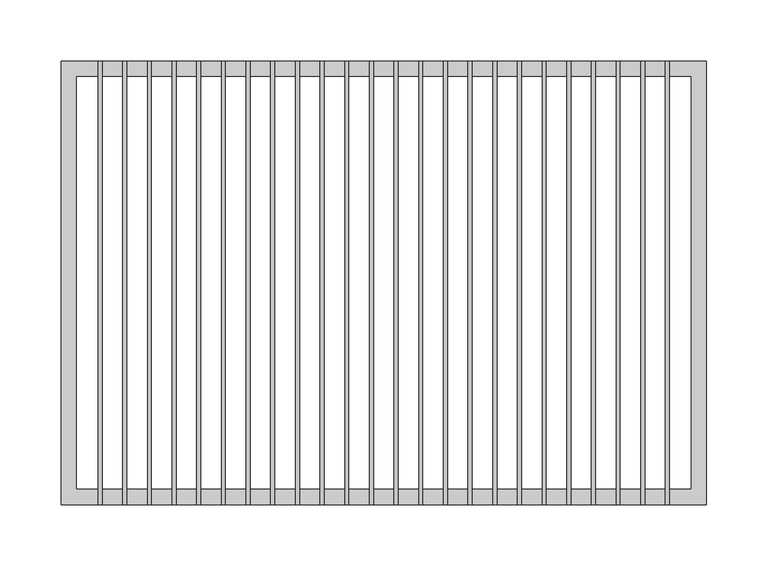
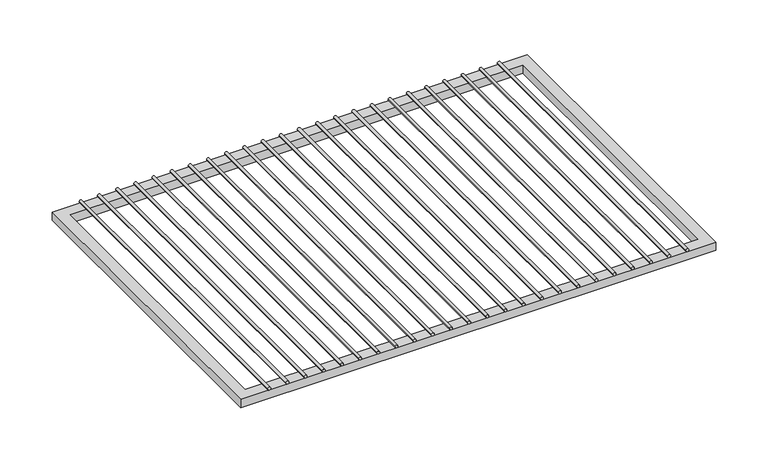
"""IFC4 building model written with IfcOpenShell, lengths in millimetres: furniture geometry, HermanMiller_CoStruc_CO252_CWireShelf : 14D x 20W."""

from ifc_helpers import new_model, si_unit, point, frame, frame_2d, origin, place, context, project, spatial, polyline, circle_curve, trimmed, segment, composite_curve, outline, extrude, source, transform, mapped, element, save


def furniture_057a80fa(model_context):
    return source(origin(), model_context, "Body", "SweptSolid", [
        extrude(outline(composite_curve([segment(trimmed(circle_curve(frame_2d((1465.2625, -211.6206522)), 1.5875), [point((1465.2625, -213.2081522))], [point((1465.2625, -210.0331522))], False, "CARTESIAN"), True, "CONTINUOUS"), segment(trimmed(circle_curve(frame_2d((1465.2625, -211.6206522)), 1.5875), [point((1465.2625, -210.0331522))], [point((1465.2625, -213.2081522))], False, "CARTESIAN"), True, "CONTINUOUS")], self_intersect=False)), frame((0.0, -180.975, 0.0), z_axis=(0.0, 1.0, 0.0), x_axis=(0.0, 0.0, 1.0)), (0.0, 0.0, 1.0), 361.95),
        extrude(outline(composite_curve([segment(trimmed(circle_curve(frame_2d((1465.2625, -191.4663043)), 1.5875), [point((1465.2625, -193.0538043))], [point((1465.2625, -189.8788043))], False, "CARTESIAN"), True, "CONTINUOUS"), segment(trimmed(circle_curve(frame_2d((1465.2625, -191.4663043)), 1.5875), [point((1465.2625, -189.8788043))], [point((1465.2625, -193.0538043))], False, "CARTESIAN"), True, "CONTINUOUS")], self_intersect=False)), frame((0.0, -180.975, 0.0), z_axis=(0.0, 1.0, 0.0), x_axis=(0.0, 0.0, 1.0)), (0.0, 0.0, 1.0), 361.95),
        extrude(outline(composite_curve([segment(trimmed(circle_curve(frame_2d((1465.2625, -171.3119565)), 1.5875), [point((1465.2625, -172.8994565))], [point((1465.2625, -169.7244565))], False, "CARTESIAN"), True, "CONTINUOUS"), segment(trimmed(circle_curve(frame_2d((1465.2625, -171.3119565)), 1.5875), [point((1465.2625, -169.7244565))], [point((1465.2625, -172.8994565))], False, "CARTESIAN"), True, "CONTINUOUS")], self_intersect=False)), frame((0.0, -180.975, 0.0), z_axis=(0.0, 1.0, 0.0), x_axis=(0.0, 0.0, 1.0)), (0.0, 0.0, 1.0), 361.95),
        extrude(outline(composite_curve([segment(trimmed(circle_curve(frame_2d((1465.2625, -151.1576087)), 1.5875), [point((1465.2625, -152.7451087))], [point((1465.2625, -149.5701087))], False, "CARTESIAN"), True, "CONTINUOUS"), segment(trimmed(circle_curve(frame_2d((1465.2625, -151.1576087)), 1.5875), [point((1465.2625, -149.5701087))], [point((1465.2625, -152.7451087))], False, "CARTESIAN"), True, "CONTINUOUS")], self_intersect=False)), frame((0.0, -180.975, 0.0), z_axis=(0.0, 1.0, 0.0), x_axis=(0.0, 0.0, 1.0)), (0.0, 0.0, 1.0), 361.95),
        extrude(outline(composite_curve([segment(trimmed(circle_curve(frame_2d((1465.2625, -131.0032609)), 1.5875), [point((1465.2625, -132.5907609))], [point((1465.2625, -129.4157609))], False, "CARTESIAN"), True, "CONTINUOUS"), segment(trimmed(circle_curve(frame_2d((1465.2625, -131.0032609)), 1.5875), [point((1465.2625, -129.4157609))], [point((1465.2625, -132.5907609))], False, "CARTESIAN"), True, "CONTINUOUS")], self_intersect=False)), frame((0.0, -180.975, 0.0), z_axis=(0.0, 1.0, 0.0), x_axis=(0.0, 0.0, 1.0)), (0.0, 0.0, 1.0), 361.95),
        extrude(outline(composite_curve([segment(trimmed(circle_curve(frame_2d((1465.2625, -110.848913)), 1.5875), [point((1465.2625, -112.436413))], [point((1465.2625, -109.261413))], False, "CARTESIAN"), True, "CONTINUOUS"), segment(trimmed(circle_curve(frame_2d((1465.2625, -110.848913)), 1.5875), [point((1465.2625, -109.261413))], [point((1465.2625, -112.436413))], False, "CARTESIAN"), True, "CONTINUOUS")], self_intersect=False)), frame((0.0, -180.975, 0.0), z_axis=(0.0, 1.0, 0.0), x_axis=(0.0, 0.0, 1.0)), (0.0, 0.0, 1.0), 361.95),
        extrude(outline(composite_curve([segment(trimmed(circle_curve(frame_2d((1465.2625, -90.6945652)), 1.5875), [point((1465.2625, -92.2820652))], [point((1465.2625, -89.1070652))], False, "CARTESIAN"), True, "CONTINUOUS"), segment(trimmed(circle_curve(frame_2d((1465.2625, -90.6945652)), 1.5875), [point((1465.2625, -89.1070652))], [point((1465.2625, -92.2820652))], False, "CARTESIAN"), True, "CONTINUOUS")], self_intersect=False)), frame((0.0, -180.975, 0.0), z_axis=(0.0, 1.0, 0.0), x_axis=(0.0, 0.0, 1.0)), (0.0, 0.0, 1.0), 361.95),
        extrude(outline(composite_curve([segment(trimmed(circle_curve(frame_2d((1465.2625, -70.5402174)), 1.5875), [point((1465.2625, -72.1277174))], [point((1465.2625, -68.9527174))], False, "CARTESIAN"), True, "CONTINUOUS"), segment(trimmed(circle_curve(frame_2d((1465.2625, -70.5402174)), 1.5875), [point((1465.2625, -68.9527174))], [point((1465.2625, -72.1277174))], False, "CARTESIAN"), True, "CONTINUOUS")], self_intersect=False)), frame((0.0, -180.975, 0.0), z_axis=(0.0, 1.0, 0.0), x_axis=(0.0, 0.0, 1.0)), (0.0, 0.0, 1.0), 361.95),
        extrude(outline(composite_curve([segment(trimmed(circle_curve(frame_2d((1465.2625, -50.3858696)), 1.5875), [point((1465.2625, -51.9733696))], [point((1465.2625, -48.7983696))], False, "CARTESIAN"), True, "CONTINUOUS"), segment(trimmed(circle_curve(frame_2d((1465.2625, -50.3858696)), 1.5875), [point((1465.2625, -48.7983696))], [point((1465.2625, -51.9733696))], False, "CARTESIAN"), True, "CONTINUOUS")], self_intersect=False)), frame((0.0, -180.975, 0.0), z_axis=(0.0, 1.0, 0.0), x_axis=(0.0, 0.0, 1.0)), (0.0, 0.0, 1.0), 361.95),
        extrude(outline(composite_curve([segment(trimmed(circle_curve(frame_2d((1465.2625, -30.2315217)), 1.5875), [point((1465.2625, -31.8190217))], [point((1465.2625, -28.6440217))], False, "CARTESIAN"), True, "CONTINUOUS"), segment(trimmed(circle_curve(frame_2d((1465.2625, -30.2315217)), 1.5875), [point((1465.2625, -28.6440217))], [point((1465.2625, -31.8190217))], False, "CARTESIAN"), True, "CONTINUOUS")], self_intersect=False)), frame((0.0, -180.975, 0.0), z_axis=(0.0, 1.0, 0.0), x_axis=(0.0, 0.0, 1.0)), (0.0, 0.0, 1.0), 361.95),
        extrude(outline(composite_curve([segment(trimmed(circle_curve(frame_2d((1465.2625, -10.0771739)), 1.5875), [point((1465.2625, -11.6646739))], [point((1465.2625, -8.4896739))], False, "CARTESIAN"), True, "CONTINUOUS"), segment(trimmed(circle_curve(frame_2d((1465.2625, -10.0771739)), 1.5875), [point((1465.2625, -8.4896739))], [point((1465.2625, -11.6646739))], False, "CARTESIAN"), True, "CONTINUOUS")], self_intersect=False)), frame((0.0, -180.975, 0.0), z_axis=(0.0, 1.0, 0.0), x_axis=(0.0, 0.0, 1.0)), (0.0, 0.0, 1.0), 361.95),
        extrude(outline(composite_curve([segment(trimmed(circle_curve(frame_2d((1465.2625, 10.0771739)), 1.5875), [point((1465.2625, 8.4896739))], [point((1465.2625, 11.6646739))], False, "CARTESIAN"), True, "CONTINUOUS"), segment(trimmed(circle_curve(frame_2d((1465.2625, 10.0771739)), 1.5875), [point((1465.2625, 11.6646739))], [point((1465.2625, 8.4896739))], False, "CARTESIAN"), True, "CONTINUOUS")], self_intersect=False)), frame((0.0, -180.975, 0.0), z_axis=(0.0, 1.0, 0.0), x_axis=(0.0, 0.0, 1.0)), (0.0, 0.0, 1.0), 361.95),
        extrude(outline(composite_curve([segment(trimmed(circle_curve(frame_2d((1465.2625, 30.2315217)), 1.5875), [point((1465.2625, 28.6440217))], [point((1465.2625, 31.8190217))], False, "CARTESIAN"), True, "CONTINUOUS"), segment(trimmed(circle_curve(frame_2d((1465.2625, 30.2315217)), 1.5875), [point((1465.2625, 31.8190217))], [point((1465.2625, 28.6440217))], False, "CARTESIAN"), True, "CONTINUOUS")], self_intersect=False)), frame((0.0, -180.975, 0.0), z_axis=(0.0, 1.0, 0.0), x_axis=(0.0, 0.0, 1.0)), (0.0, 0.0, 1.0), 361.95),
        extrude(outline(composite_curve([segment(trimmed(circle_curve(frame_2d((1465.2625, 50.3858696)), 1.5875), [point((1465.2625, 48.7983696))], [point((1465.2625, 51.9733696))], False, "CARTESIAN"), True, "CONTINUOUS"), segment(trimmed(circle_curve(frame_2d((1465.2625, 50.3858696)), 1.5875), [point((1465.2625, 51.9733696))], [point((1465.2625, 48.7983696))], False, "CARTESIAN"), True, "CONTINUOUS")], self_intersect=False)), frame((0.0, -180.975, 0.0), z_axis=(0.0, 1.0, 0.0), x_axis=(0.0, 0.0, 1.0)), (0.0, 0.0, 1.0), 361.95),
        extrude(outline(composite_curve([segment(trimmed(circle_curve(frame_2d((1465.2625, 70.5402174)), 1.5875), [point((1465.2625, 68.9527174))], [point((1465.2625, 72.1277174))], False, "CARTESIAN"), True, "CONTINUOUS"), segment(trimmed(circle_curve(frame_2d((1465.2625, 70.5402174)), 1.5875), [point((1465.2625, 72.1277174))], [point((1465.2625, 68.9527174))], False, "CARTESIAN"), True, "CONTINUOUS")], self_intersect=False)), frame((0.0, -180.975, 0.0), z_axis=(0.0, 1.0, 0.0), x_axis=(0.0, 0.0, 1.0)), (0.0, 0.0, 1.0), 361.95),
        extrude(outline(composite_curve([segment(trimmed(circle_curve(frame_2d((1465.2625, 90.6945652)), 1.5875), [point((1465.2625, 89.1070652))], [point((1465.2625, 92.2820652))], False, "CARTESIAN"), True, "CONTINUOUS"), segment(trimmed(circle_curve(frame_2d((1465.2625, 90.6945652)), 1.5875), [point((1465.2625, 92.2820652))], [point((1465.2625, 89.1070652))], False, "CARTESIAN"), True, "CONTINUOUS")], self_intersect=False)), frame((0.0, -180.975, 0.0), z_axis=(0.0, 1.0, 0.0), x_axis=(0.0, 0.0, 1.0)), (0.0, 0.0, 1.0), 361.95),
        extrude(outline(composite_curve([segment(trimmed(circle_curve(frame_2d((1465.2625, 110.848913)), 1.5875), [point((1465.2625, 109.261413))], [point((1465.2625, 112.436413))], False, "CARTESIAN"), True, "CONTINUOUS"), segment(trimmed(circle_curve(frame_2d((1465.2625, 110.848913)), 1.5875), [point((1465.2625, 112.436413))], [point((1465.2625, 109.261413))], False, "CARTESIAN"), True, "CONTINUOUS")], self_intersect=False)), frame((0.0, -180.975, 0.0), z_axis=(0.0, 1.0, 0.0), x_axis=(0.0, 0.0, 1.0)), (0.0, 0.0, 1.0), 361.95),
        extrude(outline(composite_curve([segment(trimmed(circle_curve(frame_2d((1465.2625, 131.0032609)), 1.5875), [point((1465.2625, 129.4157609))], [point((1465.2625, 132.5907609))], False, "CARTESIAN"), True, "CONTINUOUS"), segment(trimmed(circle_curve(frame_2d((1465.2625, 131.0032609)), 1.5875), [point((1465.2625, 132.5907609))], [point((1465.2625, 129.4157609))], False, "CARTESIAN"), True, "CONTINUOUS")], self_intersect=False)), frame((0.0, -180.975, 0.0), z_axis=(0.0, 1.0, 0.0), x_axis=(0.0, 0.0, 1.0)), (0.0, 0.0, 1.0), 361.95),
        extrude(outline(composite_curve([segment(trimmed(circle_curve(frame_2d((1465.2625, 151.1576087)), 1.5875), [point((1465.2625, 149.5701087))], [point((1465.2625, 152.7451087))], False, "CARTESIAN"), True, "CONTINUOUS"), segment(trimmed(circle_curve(frame_2d((1465.2625, 151.1576087)), 1.5875), [point((1465.2625, 152.7451087))], [point((1465.2625, 149.5701087))], False, "CARTESIAN"), True, "CONTINUOUS")], self_intersect=False)), frame((0.0, -180.975, 0.0), z_axis=(0.0, 1.0, 0.0), x_axis=(0.0, 0.0, 1.0)), (0.0, 0.0, 1.0), 361.95),
        extrude(outline(composite_curve([segment(trimmed(circle_curve(frame_2d((1465.2625, 171.3119565)), 1.5875), [point((1465.2625, 169.7244565))], [point((1465.2625, 172.8994565))], False, "CARTESIAN"), True, "CONTINUOUS"), segment(trimmed(circle_curve(frame_2d((1465.2625, 171.3119565)), 1.5875), [point((1465.2625, 172.8994565))], [point((1465.2625, 169.7244565))], False, "CARTESIAN"), True, "CONTINUOUS")], self_intersect=False)), frame((0.0, -180.975, 0.0), z_axis=(0.0, 1.0, 0.0), x_axis=(0.0, 0.0, 1.0)), (0.0, 0.0, 1.0), 361.95),
        extrude(outline(composite_curve([segment(trimmed(circle_curve(frame_2d((1465.2625, 191.4663043)), 1.5875), [point((1465.2625, 189.8788043))], [point((1465.2625, 193.0538043))], False, "CARTESIAN"), True, "CONTINUOUS"), segment(trimmed(circle_curve(frame_2d((1465.2625, 191.4663043)), 1.5875), [point((1465.2625, 193.0538043))], [point((1465.2625, 189.8788043))], False, "CARTESIAN"), True, "CONTINUOUS")], self_intersect=False)), frame((0.0, -180.975, 0.0), z_axis=(0.0, 1.0, 0.0), x_axis=(0.0, 0.0, 1.0)), (0.0, 0.0, 1.0), 361.95),
        extrude(outline(composite_curve([segment(trimmed(circle_curve(frame_2d((1465.2625, 211.6206522)), 1.5875), [point((1465.2625, 210.0331522))], [point((1465.2625, 213.2081522))], False, "CARTESIAN"), True, "CONTINUOUS"), segment(trimmed(circle_curve(frame_2d((1465.2625, 211.6206522)), 1.5875), [point((1465.2625, 213.2081522))], [point((1465.2625, 210.0331522))], False, "CARTESIAN"), True, "CONTINUOUS")], self_intersect=False)), frame((0.0, -180.975, 0.0), z_axis=(0.0, 1.0, 0.0), x_axis=(0.0, 0.0, 1.0)), (0.0, 0.0, 1.0), 361.95),
        extrude(outline(composite_curve([segment(trimmed(circle_curve(frame_2d((1465.2625, -231.775)), 1.5875), [point((1465.2625, -233.3625))], [point((1465.2625, -230.1875))], False, "CARTESIAN"), True, "CONTINUOUS"), segment(trimmed(circle_curve(frame_2d((1465.2625, -231.775)), 1.5875), [point((1465.2625, -230.1875))], [point((1465.2625, -233.3625))], False, "CARTESIAN"), True, "CONTINUOUS")], self_intersect=False)), frame((0.0, -180.975, 0.0), z_axis=(0.0, 1.0, 0.0), x_axis=(0.0, 0.0, 1.0)), (0.0, 0.0, 1.0), 361.95),
        extrude(outline(composite_curve([segment(trimmed(circle_curve(frame_2d((1465.2625, 231.775)), 1.5875), [point((1465.2625, 230.1875))], [point((1465.2625, 233.3625))], False, "CARTESIAN"), True, "CONTINUOUS"), segment(trimmed(circle_curve(frame_2d((1465.2625, 231.775)), 1.5875), [point((1465.2625, 233.3625))], [point((1465.2625, 230.1875))], False, "CARTESIAN"), True, "CONTINUOUS")], self_intersect=False)), frame((0.0, -180.975, 0.0), z_axis=(0.0, 1.0, 0.0), x_axis=(0.0, 0.0, 1.0)), (0.0, 0.0, 1.0), 361.95),
        extrude(outline(polyline([(-263.525, -180.975), (-263.525, 180.975), (263.525, 180.975), (263.525, -180.975), (-263.525, -180.975)]), holes=[polyline([(-250.825, -168.275), (250.825, -168.275), (250.825, 168.275), (-250.825, 168.275), (-250.825, -168.275)])]), frame((0.0, 0.0, 1454.15), z_axis=(0.0, 0.0, 1.0), x_axis=(1.0, 0.0, 0.0)), (0.0, 0.0, 1.0), 9.525),
    ])


if __name__ == "__main__":
    model = new_model("IFC4")
    model_context = context("Model", 3, world=origin())
    ifc_project = project(units=[si_unit("LENGTHUNIT", "METRE", prefix="MILLI")], contexts=[model_context])
    site = spatial("IfcSite", under=ifc_project)
    building = spatial("IfcBuilding", under=site)
    placement = place(None, origin())
    furniture_shape = furniture_057a80fa(model_context)
    element("IfcFurniture", 1, ObjectType="HermanMiller_CoStruc_CO252_CWireShelf : 14D x 20W", at=placement, inside=building, context=model_context, shape_type="MappedRepresentation", body=[
        mapped(furniture_shape, transform((0.0, 0.0, 0.0), x_axis=(1.0, 0.0, 0.0), y_axis=(0.0, 1.0, 0.0), z_axis=(0.0, 0.0, 1.0))),
    ])
    save(model, "model.ifc")
